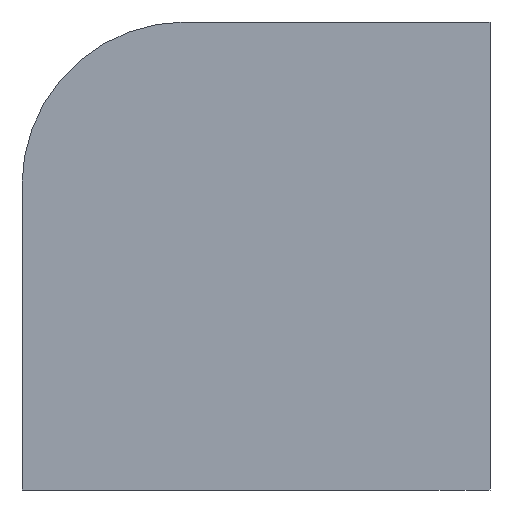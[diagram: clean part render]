
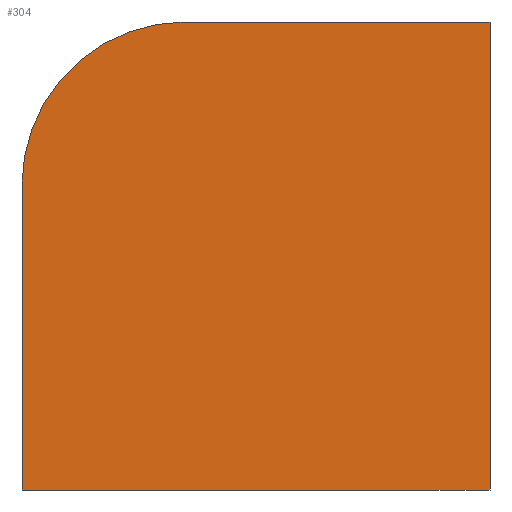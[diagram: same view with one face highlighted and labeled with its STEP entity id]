
A CAD part, left-side view. The second image highlights one B-rep face of the part: STEP entity #304.
In plain terms, the highlighted planar face has unit normal (-1, 0, 0).
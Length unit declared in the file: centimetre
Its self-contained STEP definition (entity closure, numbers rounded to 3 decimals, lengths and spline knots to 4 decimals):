
#2 = DIRECTION ( 'NONE',  ( 0., 0., -1. ) ) ;
#6 = DIRECTION ( 'NONE',  ( 0., 0., -1. ) ) ;
#9 = VERTEX_POINT ( 'NONE', #216 ) ;
#30 = EDGE_CURVE ( 'NONE', #50, #272, #181, .T. ) ;
#43 = DIRECTION ( 'NONE',  ( 0., 0., -1. ) ) ;
#45 = CARTESIAN_POINT ( 'NONE',  ( 0., 0., 1000. ) ) ;
#47 = EDGE_CURVE ( 'NONE', #272, #164, #254, .T. ) ;
#50 = VERTEX_POINT ( 'NONE', #230 ) ;
#58 = ORIENTED_EDGE ( 'NONE', *, *, #106, .T. ) ;
#65 = EDGE_LOOP ( 'NONE', ( #176, #58, #297, #383, #436 ) ) ;
#72 = DIRECTION ( 'NONE',  ( 0., -1., 0. ) ) ;
#75 = PLANE ( 'NONE',  #356 ) ;
#78 = CARTESIAN_POINT ( 'NONE',  ( 0., 0., 0. ) ) ;
#103 = LINE ( 'NONE', #427, #292 ) ;
#106 = EDGE_CURVE ( 'NONE', #50, #430, #121, .T. ) ;
#116 = DIRECTION ( 'NONE',  ( -1., 0., 0. ) ) ;
#121 = CIRCLE ( 'NONE', #348, 348.404 ) ;
#159 = CARTESIAN_POINT ( 'NONE',  ( 0., 651.596, 651.596 ) ) ;
#164 = VERTEX_POINT ( 'NONE', #78 ) ;
#170 = CARTESIAN_POINT ( 'NONE',  ( 0., 0., 1000. ) ) ;
#171 = EDGE_CURVE ( 'NONE', #430, #9, #420, .T. ) ;
#176 = ORIENTED_EDGE ( 'NONE', *, *, #30, .F. ) ;
#181 = LINE ( 'NONE', #321, #396 ) ;
#202 = VECTOR ( 'NONE', #6, 100. ) ;
#211 = DIRECTION ( 'NONE',  ( 0., 0., -1. ) ) ;
#212 = EDGE_CURVE ( 'NONE', #9, #164, #103, .T. ) ;
#216 = CARTESIAN_POINT ( 'NONE',  ( 0., 1000., 0. ) ) ;
#219 = CARTESIAN_POINT ( 'NONE',  ( 0., 1000., 651.596 ) ) ;
#225 = FACE_OUTER_BOUND ( 'NONE', #65, .T. ) ;
#230 = CARTESIAN_POINT ( 'NONE',  ( 0., 651.596, 1000. ) ) ;
#253 = DIRECTION ( 'NONE',  ( 1., 0., 0. ) ) ;
#254 = LINE ( 'NONE', #45, #284 ) ;
#272 = VERTEX_POINT ( 'NONE', #170 ) ;
#284 = VECTOR ( 'NONE', #2, 100. ) ;
#292 = VECTOR ( 'NONE', #72, 100. ) ;
#297 = ORIENTED_EDGE ( 'NONE', *, *, #171, .T. ) ;
#304 = ADVANCED_FACE ( 'NONE', ( #225 ), #75, .F. ) ;
#321 = CARTESIAN_POINT ( 'NONE',  ( 0., 1000., 1000. ) ) ;
#335 = CARTESIAN_POINT ( 'NONE',  ( 0., 1000., 1000. ) ) ;
#348 = AXIS2_PLACEMENT_3D ( 'NONE', #159, #116, #43 ) ;
#356 = AXIS2_PLACEMENT_3D ( 'NONE', #406, #253, #211 ) ;
#383 = ORIENTED_EDGE ( 'NONE', *, *, #212, .T. ) ;
#396 = VECTOR ( 'NONE', #469, 100. ) ;
#406 = CARTESIAN_POINT ( 'NONE',  ( 0., 1000., 1000. ) ) ;
#420 = LINE ( 'NONE', #335, #202 ) ;
#427 = CARTESIAN_POINT ( 'NONE',  ( 0., 1000., 0. ) ) ;
#430 = VERTEX_POINT ( 'NONE', #219 ) ;
#436 = ORIENTED_EDGE ( 'NONE', *, *, #47, .F. ) ;
#469 = DIRECTION ( 'NONE',  ( 0., -1., 0. ) ) ;
